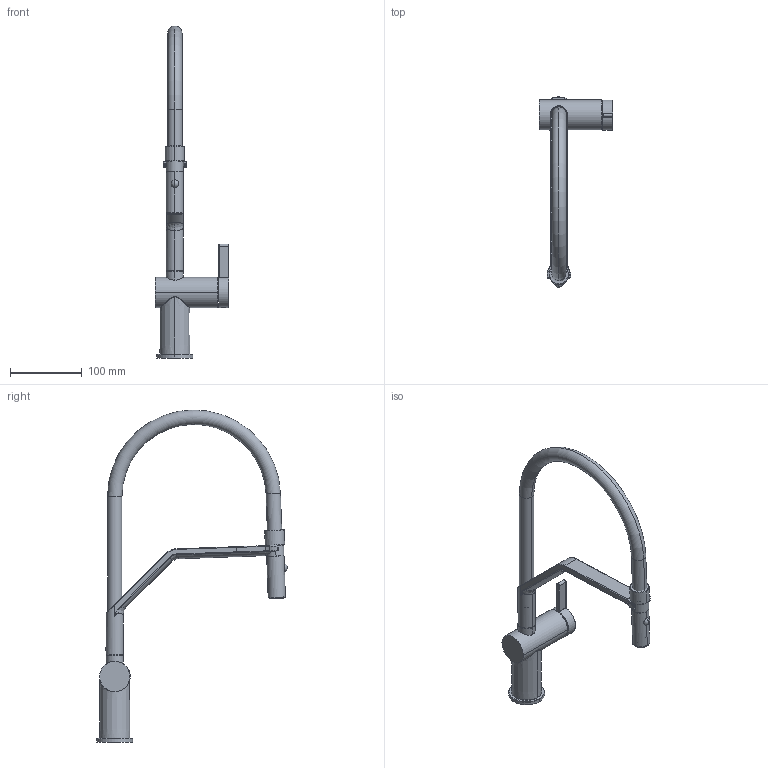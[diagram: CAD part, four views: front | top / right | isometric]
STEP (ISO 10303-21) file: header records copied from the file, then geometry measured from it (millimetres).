
FILE_DESCRIPTION(/* description */ (''),/* implementation_level */ '2;1');
FILE_NAME(/* name */ 'misc mid20.stp',/* time_stamp */ '2021-05-19T12:10:19+02:00',/* author */ (''),/* organization */ (''),/* preprocessor_version */ 'ST-DEVELOPER v16',/* originating_system */ 'SIEMENS PLM Software NX 11.0',/* authorisation */ '');
FILE_SCHEMA (('AUTOMOTIVE_DESIGN { 1 0 10303 214 3 1 1 1 }'));
Length unit declared in the file: millimetre
Products named in the file (1): mart3EF88939cdgt
Bounding box: 102.31 x 264.7 x 461.23 mm (x, y, z)
Volume: 366070.4 mm3; surface area: 152820.9 mm2
Topology: 15 solids, 19 shells, 653 faces, 1647 edges, 1003 vertices
Faces by surface type: cylinder 186, plane 177, bspline 123, torus 90, cone 65, sphere 12
Entity records: 41586 total; most frequent: CARTESIAN_POINT 26458, ORIENTED_EDGE 3184, DIRECTION 3065, EDGE_CURVE 1594, AXIS2_PLACEMENT_3D 1263, VERTEX_POINT 995, EDGE_LOOP 705, ADVANCED_FACE 645
